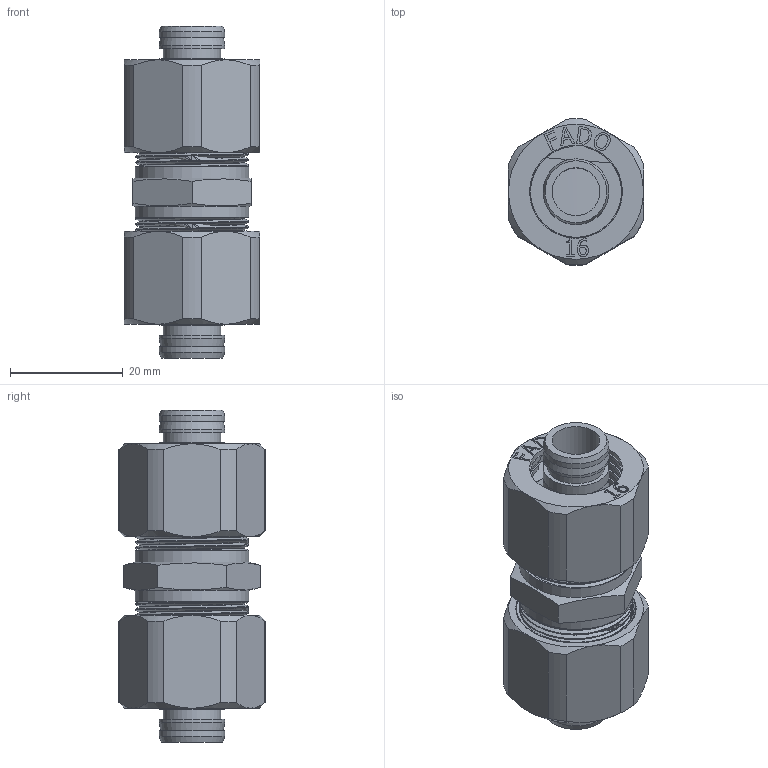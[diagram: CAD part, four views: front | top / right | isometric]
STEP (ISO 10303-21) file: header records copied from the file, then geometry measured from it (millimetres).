
FILE_DESCRIPTION(/* description */ (''),/* implementation_level */ '2;1');
FILE_NAME(/* name */ 'C:\Users\Doom\Desktop\Фадотех\Обжим\RFM01 16 30.03.2020\RFM01 16 30.03.2020.stp',/* time_stamp */ '2022-06-01T19:33:43+03:00',/* author */ ('Doom'),/* organization */ (''),/* preprocessor_version */ 'ST-DEVELOPER v18',/* originating_system */ 'Autodesk Inventor 2020',/* authorisation */ '');
FILE_SCHEMA (('AUTOMOTIVE_DESIGN { 1 0 10303 214 3 1 1 }'));
Products named in the file (5): RFM01 16 30.03.2020; RFM01 16 30.03.2020_1; FADO MC Nut-16 15.02.2020; FADO MC Socket-16 15.02.2020; Olive 16 15.02.2020
Assembly tree (7 placements, depth 2):
  RFM01 16 30.03.2020
    RFM01 16 30.03.2020_1
    FADO MC Nut-16 15.02.2020  x2
    FADO MC Socket-16 15.02.2020  x2
    Olive 16 15.02.2020  x2
Bounding box: 24 x 25.98 x 59 mm (x, y, z)
Volume: 14007.9 mm3; surface area: 23657.3 mm2
Topology: 11 solids, 11 shells, 982 faces, 2676 edges, 1794 vertices
Faces by surface type: bspline 492, plane 284, cylinder 156, cone 50
Full cylindrical faces by diameter (mm): 8.5 x2, 10.2 x4, 11.7 x8, 12.6 x2, 14.7 x4, 15.5 x1, 16.5 x2, 18.713 x4, 19 x2, 19.5 x2, 19.867 x24, 20.196 x19, 21.35 x4
Entity records: 35507 total; most frequent: CARTESIAN_POINT 23884, ORIENTED_EDGE 2826, DIRECTION 1603, EDGE_CURVE 1413, VERTEX_POINT 948, B_SPLINE_CURVE_WITH_KNOTS 587, EDGE_LOOP 575, AXIS2_PLACEMENT_3D 536
